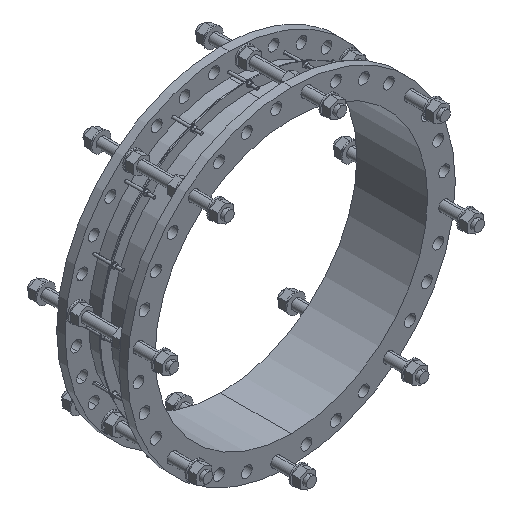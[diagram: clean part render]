
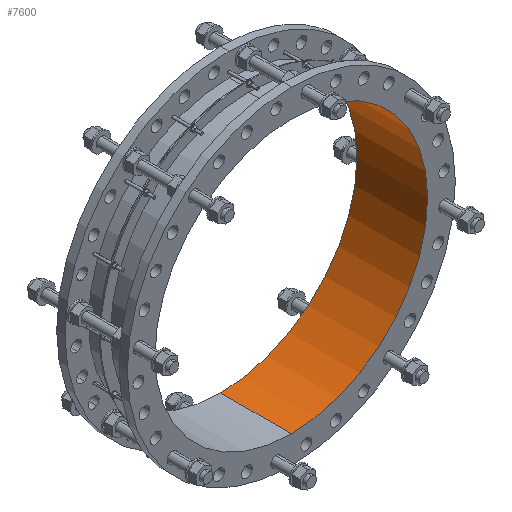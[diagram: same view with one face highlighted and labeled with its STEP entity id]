
A CAD part, isometric view. The second image highlights one B-rep face of the part: STEP entity #7600.
In plain terms, the highlighted cylindrical face has radius 617 mm (diameter 1234 mm), a partial arc.
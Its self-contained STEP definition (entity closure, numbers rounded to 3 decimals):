
#7=DIRECTION('',(0.,-1.,0.));
#8=VECTOR('',#7,320.);
#9=CARTESIAN_POINT('',(0.,0.,-617.));
#10=LINE('',#9,#8);
#11=CARTESIAN_POINT('',(0.,0.,0.));
#12=DIRECTION('',(0.,-1.,0.));
#13=DIRECTION('',(0.,0.,-1.));
#14=AXIS2_PLACEMENT_3D('',#11,#12,#13);
#16=DIRECTION('',(0.,-1.,0.));
#17=VECTOR('',#16,320.);
#18=CARTESIAN_POINT('',(0.,0.,617.));
#19=LINE('',#18,#17);
#2327=CARTESIAN_POINT('',(0.,-320.,0.));
#2328=DIRECTION('',(0.,-1.,0.));
#2329=DIRECTION('',(0.,0.,-1.));
#2330=AXIS2_PLACEMENT_3D('',#2327,#2328,#2329);
#6109=CARTESIAN_POINT('',(0.,0.,-617.));
#6110=CARTESIAN_POINT('',(0.,-320.,-617.));
#6111=VERTEX_POINT('',#6109);
#6112=VERTEX_POINT('',#6110);
#6129=CARTESIAN_POINT('',(0.,0.,617.));
#6130=CARTESIAN_POINT('',(0.,-320.,617.));
#6131=VERTEX_POINT('',#6129);
#6132=VERTEX_POINT('',#6130);
#7587=CARTESIAN_POINT('',(0.,-336.,0.));
#7588=DIRECTION('',(0.,1.,0.));
#7589=DIRECTION('',(0.,0.,-1.));
#7590=AXIS2_PLACEMENT_3D('',#7587,#7588,#7589);
#7591=CYLINDRICAL_SURFACE('',#7590,617.);
#7592=ORIENTED_EDGE('',*,*,#7576,.F.);
#7594=ORIENTED_EDGE('',*,*,#7593,.T.);
#7595=ORIENTED_EDGE('',*,*,#7580,.T.);
#7597=ORIENTED_EDGE('',*,*,#7596,.F.);
#7598=EDGE_LOOP('',(#7592,#7594,#7595,#7597));
#7599=FACE_OUTER_BOUND('',#7598,.F.);
#7600=ADVANCED_FACE('',(#7599),#7591,.F.);
#15=CIRCLE('',#14,617.);
#2331=CIRCLE('',#2330,617.);
#7576=EDGE_CURVE('',#6111,#6112,#10,.T.);
#7580=EDGE_CURVE('',#6131,#6132,#19,.T.);
#7593=EDGE_CURVE('',#6111,#6131,#15,.T.);
#7596=EDGE_CURVE('',#6112,#6132,#2331,.T.);
